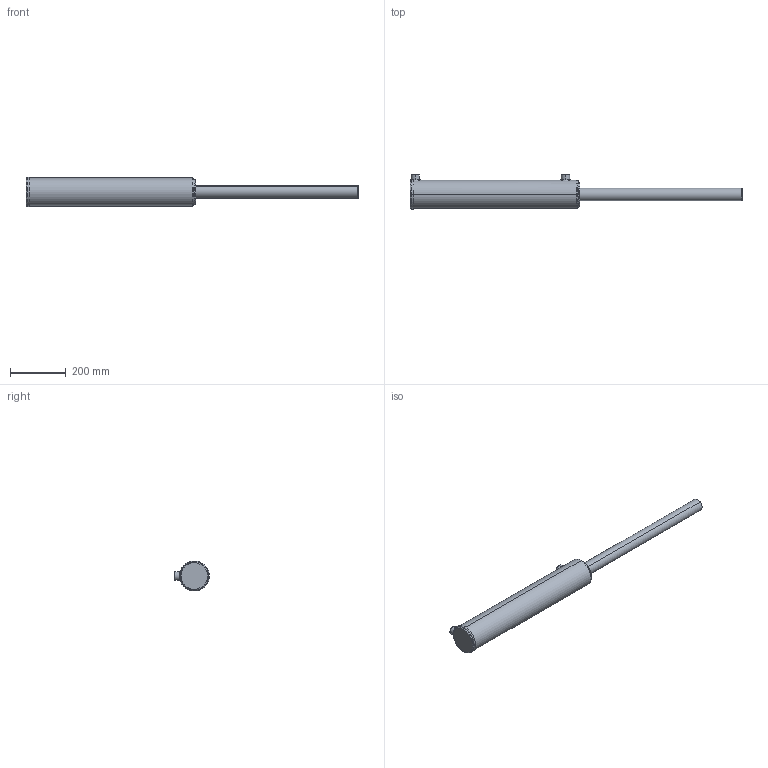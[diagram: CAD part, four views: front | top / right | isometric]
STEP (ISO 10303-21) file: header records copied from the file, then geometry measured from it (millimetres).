
FILE_DESCRIPTION (( 'STEP AP203' ), '1' );
FILE_NAME ('BL350175x508 (20) extended.STEP', '2014-11-24T03:35:09', ( '' ), ( '' ), 'SwSTEP 2.0', 'SolidWorks 2014', '' );
FILE_SCHEMA (( 'CONFIG_CONTROL_DESIGN' ));
Length unit declared in the file: millimetre
Products named in the file (3): Spare_3.5x20; BL350175x508 (20) extended; BL body 3.5_3.5x20
Assembly tree (2 placements, depth 2):
  BL350175x508 (20) extended
    BL body 3.5_3.5x20
    Spare_3.5x20
Bounding box: 1191 x 124.4 x 107.2 mm (x, y, z)
Volume: 5572160.4 mm3; surface area: 351257.8 mm2
Topology: 2 solids, 2 shells, 88 faces, 205 edges, 126 vertices
Faces by surface type: cylinder 32, plane 20, torus 17, bspline 11, cone 8
Entity records: 6022 total; most frequent: CARTESIAN_POINT 3775, DIRECTION 420, ORIENTED_EDGE 402, EDGE_CURVE 201, AXIS2_PLACEMENT_3D 181, VERTEX_POINT 126, EDGE_LOOP 101, CIRCLE 99
